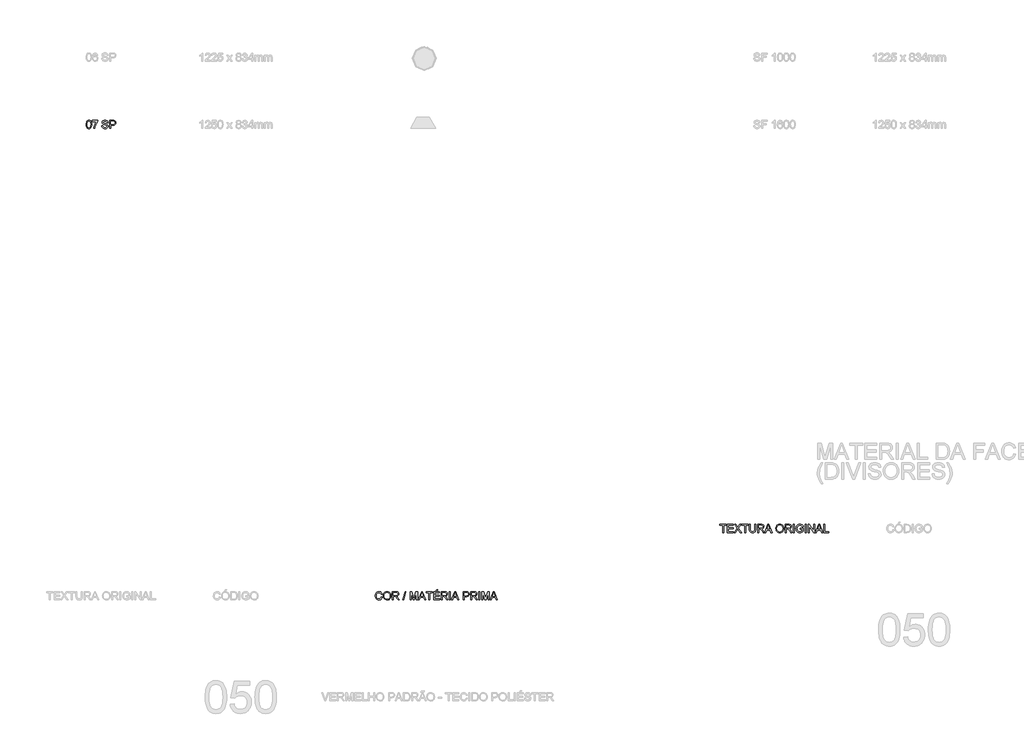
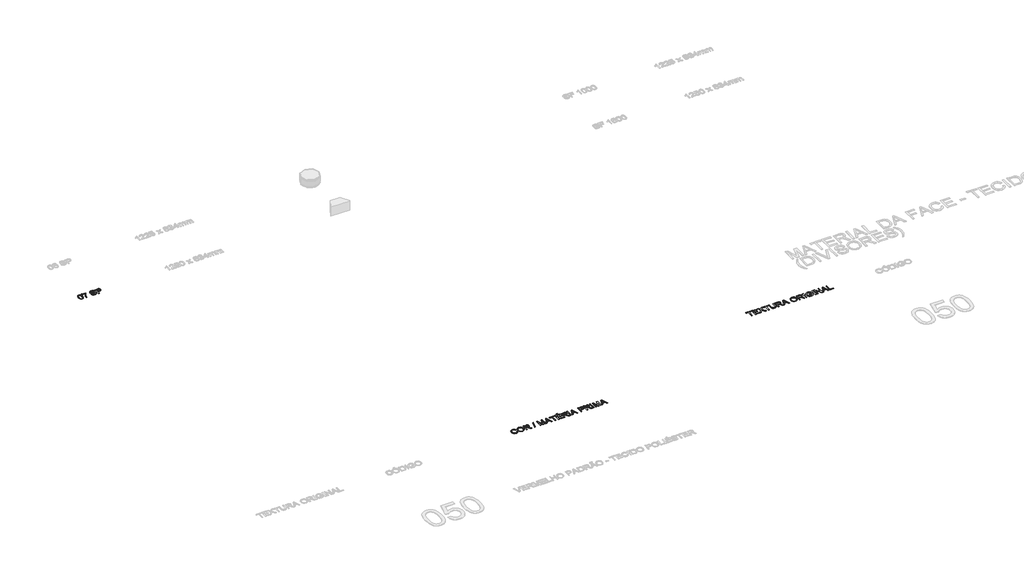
# One storey, part 21 of 67: 3 proxies.
"""IFC4 building model written with IfcOpenShell, lengths in millimetres."""

from ifc_helpers import new_model, si_unit, origin, origin_with_axes, place, context, project, spatial, polyline, outline, extrude, element, save

model = new_model("IFC4")

# Units and contexts
model_context = context("Model", 3, world=origin())
ifc_project = project(units=[si_unit("LENGTHUNIT", "METRE", prefix="MILLI")], contexts=[model_context])

# Site, building, storey
site = spatial("IfcSite", under=ifc_project)
building = spatial("IfcBuilding", under=site)
storey = spatial("IfcBuildingStorey", under=building, Name="Marelli - Linha COLAB - Planta Baixa", Elevation=0.0)

# Proxies
placement = place(None, origin())
element("IfcBuildingElementProxy", 1, Name="300mm Arial", ObjectType="300mm Arial", at=placement, inside=storey, context=model_context, shape_type="SweptSolid", body=[
    extrude(outline(polyline([(-29646.6724166, -8632.309876), (-29643.9041046, -8584.0713494), (-29635.5991686, -8545.6000897), (-29621.8403819, -8516.3074859), (-29602.7105182, -8495.6049266), (-29578.0716216, -8483.2992739), (-29547.7857363, -8479.1973896), (-29524.5723824, -8481.6254108), (-29503.7870497, -8488.9094743), (-29486.4046254, -8500.7644716), (-29473.3999969, -8516.9052941), (-29463.5775476, -8537.1939862), (-29455.7416611, -8561.4925919), (-29450.6097073, -8592.3486943), (-29448.899056, -8632.309876), (-29451.6397769, -8680.2724911), (-29459.8619395, -8718.6517803), (-29473.5379526, -8747.9719753), (-29492.6402252, -8768.757308), (-29517.3343042, -8781.1457342), (-29547.7857363, -8785.2752096), (-29568.5342808, -8783.4817849), (-29586.9283806, -8778.1015107), (-29602.9680356, -8769.1343871), (-29616.6532458, -8756.580414), (-29629.786633, -8733.8866934), (-29639.1676239, -8705.6103636), (-29644.7962184, -8671.7514244), (-29646.6724166, -8632.309876)]), holes=[polyline([(-29609.0013003, -8632.2362996), (-29604.5867164, -8691.492892), (-29599.0684864, -8711.7608907), (-29591.3429645, -8725.788691), (-29571.6244896, -8742.1502427), (-29547.7857363, -8747.6040933), (-29523.946983, -8742.1318486), (-29504.2285081, -8725.7151146), (-29496.5029862, -8711.6643216), (-29490.9847563, -8691.4009215), (-29486.5701723, -8632.2362996), (-29490.8376035, -8574.3132795), (-29496.1718924, -8554.1119594), (-29503.6398969, -8539.750766), (-29523.3215836, -8522.589071), (-29548.2271947, -8516.8685059), (-29571.8084306, -8521.9084893), (-29590.7543533, -8537.0284393), (-29598.7373926, -8552.6634241), (-29604.4395636, -8573.7430624), (-29609.0013003, -8632.2362996)])]), origin_with_axes(), (0.0, 0.0, 1.0), 10.0),
    extrude(outline(polyline([(-29415.9368292, -8521.5773955), (-29415.9368292, -8483.9062792), (-29218.1634686, -8483.9062792), (-29218.1634686, -8514.3669084), (-29246.3524265, -8550.0422648), (-29274.2654729, -8595.4113119), (-29298.8859754, -8646.3353771), (-29317.1973017, -8698.6757879), (-29326.1736224, -8737.8368263), (-29331.1768175, -8780.5663201), (-29368.8479339, -8780.5663201), (-29364.7736408, -8741.7363755), (-29353.8751366, -8695.5855792), (-29336.4467271, -8646.6664709), (-29312.7827178, -8599.5315902), (-29285.15478, -8556.9216582), (-29255.8345849, -8521.5773955), (-29415.9368292, -8521.5773955)])), origin_with_axes(), (0.0, 0.0, 1.0), 10.0),
    extrude(outline(polyline([(-29067.4790034, -8676.9707502), (-29029.8078871, -8676.9707502), (-29025.4852737, -8697.8756446), (-29017.6677813, -8714.6786547), (-29005.4724931, -8728.0143771), (-28988.0164924, -8738.517408), (-28966.6793367, -8745.332422), (-28942.8405834, -8747.6040933), (-28921.8529156, -8745.884245), (-28903.47721, -8740.7247), (-28888.5871862, -8732.5577197), (-28878.0565641, -8721.8155654), (-28871.7933731, -8709.4823215), (-28869.7056428, -8696.5420724), (-28871.2691413, -8683.932917), (-28875.9596367, -8673.0344129), (-28885.4877804, -8663.7361954), (-28901.5642236, -8655.9279001), (-28956.4154291, -8641.5437141), (-28992.4218793, -8632.0247675), (-29015.4604893, -8622.9656733), (-29034.213274, -8610.2921386), (-29047.5030111, -8594.9330653), (-29055.421671, -8577.2195472), (-29058.0612243, -8557.4826782), (-29054.7962716, -8535.4189555), (-29045.0014135, -8514.845155), (-29028.9341674, -8497.4075484), (-29006.8520506, -8484.7524077), (-28980.3461528, -8477.054477), (-28951.0075637, -8474.4885001), (-28919.2225593, -8477.1740386), (-28891.4106805, -8485.2306543), (-28868.5652086, -8498.4928003), (-28851.679425, -8516.7949295), (-28840.9924531, -8538.9966079), (-28836.743416, -8563.9574013), (-28874.4145323, -8563.9574013), (-28881.3307138, -8541.4798114), (-28895.7516881, -8525.2562154), (-28918.2844603, -8515.4337661), (-28949.5360358, -8512.1596164), (-28981.5233752, -8515.3969779), (-29003.4675362, -8525.1090626), (-29016.1594651, -8539.4012781), (-29020.390108, -8556.3790322), (-29017.3918698, -8570.8551887), (-29008.397155, -8582.4986539), (-28987.1335757, -8592.9097143), (-28946.8872854, -8603.541504), (-28905.3534081, -8613.6398648), (-28880.2270679, -8622.4506385), (-28858.7519564, -8636.1174547), (-28843.7699621, -8652.9848441), (-28834.9683854, -8672.868866), (-28832.0345265, -8695.5855792), (-28835.4098438, -8718.8081301), (-28845.5357957, -8740.6511236), (-28861.998515, -8759.4498935), (-28884.3841344, -8773.539774), (-28911.3038994, -8782.3413507), (-28941.3690555, -8785.2752096), (-28978.2768166, -8782.1114244), (-29008.6546724, -8772.620069), (-29032.8521106, -8756.764355), (-29051.2186192, -8734.5074943), (-29063.0092372, -8707.3945912), (-29067.4790034, -8676.9707502)])), origin_with_axes(), (0.0, 0.0, 1.0), 10.0),
    extrude(outline(polyline([(-28775.527852, -8780.5663201), (-28775.527852, -8479.1973896), (-28663.8388783, -8479.1973896), (-28618.8101221, -8482.0668692), (-28598.7329622, -8487.4287493), (-28582.2058636, -8496.1567496), (-28568.8977324, -8508.6463433), (-28558.4774749, -8525.2930036), (-28551.7452344, -8544.9287051), (-28549.5011542, -8566.3854225), (-28551.0163682, -8584.8852883), (-28555.5620101, -8601.9044291), (-28563.1380799, -8617.4428449), (-28573.7445777, -8631.5005356), (-28588.3058069, -8643.1531978), (-28607.7460711, -8651.476528), (-28632.0653702, -8656.470526), (-28661.2637043, -8658.1351921), (-28737.8567357, -8658.1351921), (-28737.8567357, -8780.5663201), (-28775.527852, -8780.5663201)]), holes=[polyline([(-28737.8567357, -8620.4640758), (-28659.0564124, -8620.4640758), (-28625.6527272, -8617.005985), (-28603.5798075, -8606.6317127), (-28591.2741547, -8589.9850525), (-28587.1722705, -8567.7097977), (-28589.5910946, -8550.7872259), (-28596.847567, -8536.5134045), (-28608.0403767, -8525.7712502), (-28622.2682128, -8519.4436799), (-28659.9393291, -8516.8685059), (-28737.8567357, -8516.8685059), (-28737.8567357, -8620.4640758)])]), origin_with_axes(), (0.0, 0.0, 1.0), 10.0),
])
element("IfcBuildingElementProxy", 2, Name="300mm Arial", ObjectType="300mm Arial", at=placement, inside=storey, context=model_context, shape_type="SweptSolid", body=[
    extrude(outline(polyline([(-18695.8970747, -26173.4390831), (-18658.2259584, -26183.1511677), (-18665.6801673, -26206.5783531), (-18675.6083827, -26227.0486868), (-18688.0106044, -26244.5621691), (-18702.8868326, -26259.1187997), (-18719.9013749, -26270.5622291), (-18738.7185389, -26278.7361071), (-18759.3383248, -26283.640434), (-18781.7607324, -26285.2752096), (-18825.4559164, -26280.3271968), (-18860.1563855, -26265.4831583), (-18886.7542538, -26241.2581289), (-18906.1416349, -26208.1671434), (-18917.9782381, -26169.2636224), (-18921.9237725, -26127.6009865), (-18917.4632033, -26083.6574821), (-18904.0814958, -26045.7104543), (-18882.4776256, -26014.9647166), (-18853.3505686, -25992.6250824), (-18818.8064493, -25979.0226457), (-18780.951392, -25974.4885001), (-18739.647441, -25980.3562179), (-18721.6787048, -25987.6908652), (-18705.4987948, -25997.9593714), (-18691.3744254, -26010.8904235), (-18679.5723112, -26026.2127086), (-18662.9348479, -26064.0309777), (-18700.6059642, -26073.0072984), (-18713.6657751, -26045.5357104), (-18731.5080518, -26026.6909552), (-18754.3535237, -26015.7924511), (-18782.42292, -26012.1596164), (-18814.7781414, -26016.1879242), (-18841.3576156, -26028.2728478), (-18861.526746, -26047.1451941), (-18874.6509362, -26071.5357704), (-18881.8522262, -26099.1085259), (-18884.2526562, -26127.5274101), (-18881.4107678, -26162.3290468), (-18872.8851026, -26192.421794), (-18858.3537638, -26216.6560205), (-18837.4948546, -26233.8820949), (-18812.488076, -26244.1735937), (-18785.5131287, -26247.6040933), (-18754.0684152, -26242.931992), (-18727.8660201, -26228.9156879), (-18708.0831658, -26205.702334), (-18695.8970747, -26173.4390831)])), origin_with_axes(), (0.0, 0.0, 1.0), 10.0),
    extrude(outline(polyline([(-18620.5548421, -26133.8549804), (-18618.0440475, -26098.5061192), (-18610.5116636, -26067.213157), (-18597.9576905, -26039.9760937), (-18580.3821282, -26016.7949295), (-18558.8380389, -25998.2858666), (-18534.3784847, -25985.0651074), (-18507.0034658, -25977.1326519), (-18476.712982, -25974.4885001), (-18437.1840616, -25979.454907), (-18401.7386314, -25994.3541278), (-18372.3080717, -26018.1376988), (-18350.8237632, -26049.7571563), (-18337.690376, -26087.68579), (-18333.3125803, -26130.3968896), (-18337.9203022, -26173.6782064), (-18351.7434682, -26212.140269), (-18374.018723, -26243.8149087), (-18403.9827115, -26266.733957), (-18439.1246391, -26280.6398965), (-18476.9337112, -26285.2752096), (-18517.0696368, -26280.1524528), (-18552.7174022, -26264.7841825), (-18582.0743854, -26240.5591531), (-18603.3379647, -26208.8661192), (-18616.2506227, -26172.3998164), (-18620.5548421, -26133.8549804)]), holes=[polyline([(-18582.8837258, -26134.2228624), (-18581.0006298, -26159.1974513), (-18575.3513419, -26181.3669401), (-18565.9358621, -26200.7313286), (-18552.7541904, -26217.2906169), (-18536.7306302, -26230.5527628), (-18518.7894852, -26240.0257242), (-18498.9307552, -26245.709501), (-18477.1544404, -26247.6040933), (-18455.005645, -26245.6911069), (-18434.9123903, -26239.9521478), (-18416.8746762, -26230.3872159), (-18400.8925028, -26216.9963113), (-18387.8074001, -26200.0875351), (-18378.4608981, -26179.9689885), (-18372.8529969, -26156.6406715), (-18370.9836966, -26130.102584), (-18374.1842699, -26096.7540812), (-18383.78599, -26067.9305269), (-18399.5405364, -26044.358488), (-18421.1995889, -26026.7645316), (-18447.3284076, -26015.8108452), (-18476.4922528, -26012.1596164), (-18497.5121103, -26013.9185522), (-18517.0144545, -26019.1953595), (-18534.9992856, -26027.9900385), (-18551.4666034, -26040.302589), (-18565.2115944, -26056.7262208), (-18575.0294452, -26077.8541437), (-18580.9201556, -26103.6863575), (-18582.8837258, -26134.2228624)])]), origin_with_axes(), (0.0, 0.0, 1.0), 10.0),
    extrude(outline(polyline([(-18281.5147953, -26280.5663201), (-18281.5147953, -25979.1973896), (-18151.652451, -25979.1973896), (-18116.7496467, -25981.2299376), (-18091.356592, -25987.3275817), (-18072.7969454, -25998.5847708), (-18058.3943653, -26016.0959537), (-18049.1513301, -26037.8101885), (-18046.0703184, -26061.6765329), (-18051.1746811, -26091.3646099), (-18066.4877692, -26115.9759154), (-18078.0875483, -26126.0052983), (-18092.4694351, -26134.0205273), (-18129.5795313, -26144.0085235), (-18108.1687992, -26160.1217548), (-18077.6345936, -26198.8965171), (-18027.3819131, -26280.5663201), (-18071.1598705, -26280.5663201), (-18110.3760912, -26218.0999573), (-18138.7030048, -26176.750021), (-18158.6054207, -26157.2154871), (-18176.5212739, -26150.0417882), (-18198.3734644, -26148.717413), (-18243.843679, -26148.717413), (-18243.843679, -26280.5663201), (-18281.5147953, -26280.5663201)]), holes=[polyline([(-18243.843679, -26111.0462967), (-18159.5251257, -26111.0462967), (-18135.3092934, -26109.7127245), (-18116.5197205, -26105.7120078), (-18102.3746578, -26098.7774322), (-18092.092356, -26088.6422832), (-18085.829165, -26076.3826157), (-18083.7414347, -26063.0744845), (-18087.7237573, -26044.6987789), (-18099.6707251, -26029.8915286), (-18120.2261316, -26020.1242616), (-18150.0337703, -26016.8685059), (-18243.843679, -26016.8685059), (-18243.843679, -26111.0462967)])]), origin_with_axes(), (0.0, 0.0, 1.0), 10.0),
    extrude(outline(polyline([(-17895.3858532, -26280.5663201), (-17810.6258415, -25979.1973896), (-17776.6335452, -25979.1973896), (-17861.3935568, -26280.5663201), (-17895.3858532, -26280.5663201)])), origin_with_axes(), (0.0, 0.0, 1.0), 10.0),
    extrude(outline(polyline([(-17626.9791495, -26280.5663201), (-17626.9791495, -25979.1973896), (-17562.158342, -25979.1973896), (-17500.5013196, -26191.6124536), (-17488.0669081, -26235.9790223), (-17474.6024271, -26187.9336337), (-17413.9754743, -25979.1973896), (-17349.1546668, -25979.1973896), (-17349.1546668, -26280.5663201), (-17386.8257831, -26280.5663201), (-17386.8257831, -26016.8685059), (-17462.5358977, -26280.5663201), (-17513.5979186, -26280.5663201), (-17589.3080332, -26016.8685059), (-17589.3080332, -26280.5663201), (-17626.9791495, -26280.5663201)])), origin_with_axes(), (0.0, 0.0, 1.0), 10.0),
    extrude(outline(polyline([(-17318.3261556, -26280.5663201), (-17198.0287431, -25979.1973896), (-17165.9494332, -25979.1973896), (-17045.6520207, -26280.5663201), (-17085.4568526, -26280.5663201), (-17119.9641838, -26186.3885293), (-17244.0875689, -26186.3885293), (-17278.5213237, -26280.5663201), (-17318.3261556, -26280.5663201)]), holes=[polyline([(-17230.2552059, -26148.717413), (-17133.7229704, -26148.717413), (-17160.8726616, -26074.6259792), (-17181.9890881, -26016.8685059), (-17200.7510699, -26068.1512561), (-17230.2552059, -26148.717413)])]), origin_with_axes(), (0.0, 0.0, 1.0), 10.0),
    extrude(outline(polyline([(-16930.0634979, -26280.5663201), (-16930.0634979, -26016.8685059), (-17028.9501782, -26016.8685059), (-17028.9501782, -25979.1973896), (-16793.5057012, -25979.1973896), (-16793.5057012, -26016.8685059), (-16892.3923815, -26016.8685059), (-16892.3923815, -26280.5663201), (-16930.0634979, -26280.5663201)])), origin_with_axes(), (0.0, 0.0, 1.0), 10.0),
    extrude(outline(polyline([(-16751.1256954, -26280.5663201), (-16751.1256954, -25979.1973896), (-16534.5167766, -25979.1973896), (-16534.5167766, -26016.8685059), (-16713.4545791, -26016.8685059), (-16713.4545791, -26106.3374072), (-16543.9345557, -26106.3374072), (-16543.9345557, -26144.0085235), (-16713.4545791, -26144.0085235), (-16713.4545791, -26242.8952038), (-16529.8078871, -26242.8952038), (-16529.8078871, -26280.5663201), (-16751.1256954, -26280.5663201)])), origin_with_axes(), (0.0, 0.0, 1.0), 10.0),
    extrude(outline(polyline([(-16666.3656837, -25960.3618315), (-16638.1123465, -25903.855157), (-16591.0234511, -25903.855157), (-16638.1123465, -25960.3618315), (-16666.3656837, -25960.3618315)])), origin_with_axes(), (0.0, 0.0, 1.0), 10.0),
    extrude(outline(polyline([(-16473.3012126, -26280.5663201), (-16473.3012126, -25979.1973896), (-16343.4388683, -25979.1973896), (-16308.536064, -25981.2299376), (-16283.1430093, -25987.3275817), (-16264.5833627, -25998.5847708), (-16250.1807826, -26016.0959537), (-16240.9377474, -26037.8101885), (-16237.8567357, -26061.6765329), (-16242.9610984, -26091.3646099), (-16258.2741865, -26115.9759154), (-16269.8739656, -26126.0052983), (-16284.2558524, -26134.0205273), (-16321.3659486, -26144.0085235), (-16299.9552165, -26160.1217548), (-16269.4210109, -26198.8965171), (-16219.1683304, -26280.5663201), (-16262.9462878, -26280.5663201), (-16302.1625085, -26218.0999573), (-16330.4894221, -26176.750021), (-16350.3918381, -26157.2154871), (-16368.3076912, -26150.0417882), (-16390.1598817, -26148.717413), (-16435.6300963, -26148.717413), (-16435.6300963, -26280.5663201), (-16473.3012126, -26280.5663201)]), holes=[polyline([(-16435.6300963, -26111.0462967), (-16351.311543, -26111.0462967), (-16327.0957107, -26109.7127245), (-16308.3061378, -26105.7120078), (-16294.1610751, -26098.7774322), (-16283.8787733, -26088.6422832), (-16277.6155824, -26076.3826157), (-16275.527852, -26063.0744845), (-16279.5101746, -26044.6987789), (-16291.4571424, -26029.8915286), (-16312.0125489, -26020.1242616), (-16341.8201876, -26016.8685059), (-16435.6300963, -26016.8685059), (-16435.6300963, -26111.0462967)])]), origin_with_axes(), (0.0, 0.0, 1.0), 10.0),
    extrude(outline(polyline([(-16167.2233927, -26280.5663201), (-16167.2233927, -25979.1973896), (-16129.5522763, -25979.1973896), (-16129.5522763, -26280.5663201), (-16167.2233927, -26280.5663201)])), origin_with_axes(), (0.0, 0.0, 1.0), 10.0),
    extrude(outline(polyline([(-16089.3059861, -26280.5663201), (-15969.0085737, -25979.1973896), (-15936.9292637, -25979.1973896), (-15816.6318512, -26280.5663201), (-15856.4366831, -26280.5663201), (-15890.9440143, -26186.3885293), (-16015.0673994, -26186.3885293), (-16049.5011542, -26280.5663201), (-16089.3059861, -26280.5663201)]), holes=[polyline([(-16001.2350364, -26148.717413), (-15904.7028009, -26148.717413), (-15931.8524921, -26074.6259792), (-15952.9689187, -26016.8685059), (-15971.7309004, -26068.1512561), (-16001.2350364, -26148.717413)])]), origin_with_axes(), (0.0, 0.0, 1.0), 10.0),
    extrude(outline(polyline([(-15658.6633225, -26280.5663201), (-15658.6633225, -25979.1973896), (-15546.9743488, -25979.1973896), (-15501.9455926, -25982.0668692), (-15481.8684327, -25987.4287493), (-15465.3413341, -25996.1567496), (-15452.0332029, -26008.6463433), (-15441.6129454, -26025.2930036), (-15434.8807049, -26044.9287051), (-15432.6366247, -26066.3854225), (-15434.1518387, -26084.8852883), (-15438.6974806, -26101.9044291), (-15446.2735504, -26117.4428449), (-15456.8800482, -26131.5005356), (-15471.4412774, -26143.1531978), (-15490.8815416, -26151.476528), (-15515.2008407, -26156.470526), (-15544.3991748, -26158.1351921), (-15620.9922062, -26158.1351921), (-15620.9922062, -26280.5663201), (-15658.6633225, -26280.5663201)]), holes=[polyline([(-15620.9922062, -26120.4640758), (-15542.1918828, -26120.4640758), (-15508.7881977, -26117.005985), (-15486.715278, -26106.6317127), (-15474.4096252, -26089.9850525), (-15470.307741, -26067.7097977), (-15472.7265651, -26050.7872259), (-15479.9830375, -26036.5134045), (-15491.1758472, -26025.7712502), (-15505.4036833, -26019.4436799), (-15543.0747996, -26016.8685059), (-15620.9922062, -26016.8685059), (-15620.9922062, -26120.4640758)])]), origin_with_axes(), (0.0, 0.0, 1.0), 10.0),
    extrude(outline(polyline([(-15380.8388398, -26280.5663201), (-15380.8388398, -25979.1973896), (-15250.9764955, -25979.1973896), (-15216.0736912, -25981.2299376), (-15190.6806365, -25987.3275817), (-15172.1209898, -25998.5847708), (-15157.7184097, -26016.0959537), (-15148.4753746, -26037.8101885), (-15145.3943628, -26061.6765329), (-15150.4987255, -26091.3646099), (-15165.8118136, -26115.9759154), (-15177.4115927, -26126.0052983), (-15191.7934795, -26134.0205273), (-15228.9035758, -26144.0085235), (-15207.4928436, -26160.1217548), (-15176.958638, -26198.8965171), (-15126.7059575, -26280.5663201), (-15170.4839149, -26280.5663201), (-15209.7001356, -26218.0999573), (-15238.0270492, -26176.750021), (-15257.9294652, -26157.2154871), (-15275.8453183, -26150.0417882), (-15297.6975089, -26148.717413), (-15343.1677235, -26148.717413), (-15343.1677235, -26280.5663201), (-15380.8388398, -26280.5663201)]), holes=[polyline([(-15343.1677235, -26111.0462967), (-15258.8491702, -26111.0462967), (-15234.6333378, -26109.7127245), (-15215.8437649, -26105.7120078), (-15201.6987022, -26098.7774322), (-15191.4164004, -26088.6422832), (-15185.1532095, -26076.3826157), (-15183.0654792, -26063.0744845), (-15187.0478018, -26044.6987789), (-15198.9947695, -26029.8915286), (-15219.550176, -26020.1242616), (-15249.3578147, -26016.8685059), (-15343.1677235, -26016.8685059), (-15343.1677235, -26111.0462967)])]), origin_with_axes(), (0.0, 0.0, 1.0), 10.0),
    extrude(outline(polyline([(-15074.7610198, -26280.5663201), (-15074.7610198, -25979.1973896), (-15037.0899035, -25979.1973896), (-15037.0899035, -26280.5663201), (-15074.7610198, -26280.5663201)])), origin_with_axes(), (0.0, 0.0, 1.0), 10.0),
    extrude(outline(polyline([(-14961.7476709, -26280.5663201), (-14961.7476709, -25979.1973896), (-14896.9268633, -25979.1973896), (-14835.2698409, -26191.6124536), (-14822.8354295, -26235.9790223), (-14809.3709485, -26187.9336337), (-14748.7439956, -25979.1973896), (-14683.9231881, -25979.1973896), (-14683.9231881, -26280.5663201), (-14721.5943044, -26280.5663201), (-14721.5943044, -26016.8685059), (-14797.304419, -26280.5663201), (-14848.3664399, -26280.5663201), (-14924.0765546, -26016.8685059), (-14924.0765546, -26280.5663201), (-14961.7476709, -26280.5663201)])), origin_with_axes(), (0.0, 0.0, 1.0), 10.0),
    extrude(outline(polyline([(-14653.0946769, -26280.5663201), (-14532.7972645, -25979.1973896), (-14500.7179545, -25979.1973896), (-14380.4205421, -26280.5663201), (-14420.225374, -26280.5663201), (-14454.7327051, -26186.3885293), (-14578.8560903, -26186.3885293), (-14613.289845, -26280.5663201), (-14653.0946769, -26280.5663201)]), holes=[polyline([(-14565.0237273, -26148.717413), (-14468.4914917, -26148.717413), (-14495.641183, -26074.6259792), (-14516.7576095, -26016.8685059), (-14535.5195912, -26068.1512561), (-14565.0237273, -26148.717413)])]), origin_with_axes(), (0.0, 0.0, 1.0), 10.0),
])
element("IfcBuildingElementProxy", 3, Name="300mm Arial", ObjectType="300mm Arial", at=placement, inside=storey, context=model_context, shape_type="SweptSolid", body=[
    extrude(outline(polyline([(-6021.6681618, -23780.5663201), (-6021.6681618, -23516.8685059), (-6120.5548421, -23516.8685059), (-6120.5548421, -23479.1973896), (-5885.1103652, -23479.1973896), (-5885.1103652, -23516.8685059), (-5983.9970455, -23516.8685059), (-5983.9970455, -23780.5663201), (-6021.6681618, -23780.5663201)])), origin_with_axes(), (0.0, 0.0, 1.0), 10.0),
    extrude(outline(polyline([(-5842.7303593, -23780.5663201), (-5842.7303593, -23479.1973896), (-5626.1214406, -23479.1973896), (-5626.1214406, -23516.8685059), (-5805.059243, -23516.8685059), (-5805.059243, -23606.3374072), (-5635.5392196, -23606.3374072), (-5635.5392196, -23644.0085235), (-5805.059243, -23644.0085235), (-5805.059243, -23742.8952038), (-5621.412551, -23742.8952038), (-5621.412551, -23780.5663201), (-5842.7303593, -23780.5663201)])), origin_with_axes(), (0.0, 0.0, 1.0), 10.0),
    extrude(outline(polyline([(-5597.8681033, -23780.5663201), (-5481.6909693, -23616.3437974), (-5579.0325452, -23479.1973896), (-5533.8566362, -23479.1973896), (-5479.0422189, -23556.3790322), (-5460.5745427, -23586.4717794), (-5438.9430814, -23555.8639974), (-5384.7172753, -23479.1973896), (-5338.8791787, -23479.1973896), (-5436.2207547, -23616.7852558), (-5320.0436206, -23780.5663201), (-5365.2195296, -23780.5663201), (-5442.6219014, -23671.3789439), (-5458.7351328, -23648.717413), (-5476.4670449, -23673.5862359), (-5552.0300067, -23780.5663201), (-5597.8681033, -23780.5663201)])), origin_with_axes(), (0.0, 0.0, 1.0), 10.0),
    extrude(outline(polyline([(-5207.0302717, -23780.5663201), (-5207.0302717, -23516.8685059), (-5305.916952, -23516.8685059), (-5305.916952, -23479.1973896), (-5070.4724751, -23479.1973896), (-5070.4724751, -23516.8685059), (-5169.3591554, -23516.8685059), (-5169.3591554, -23780.5663201), (-5207.0302717, -23780.5663201)])), origin_with_axes(), (0.0, 0.0, 1.0), 10.0),
    extrude(outline(polyline([(-4830.3191086, -23479.1973896), (-4792.6479923, -23479.1973896), (-4792.6479923, -23653.0584205), (-4795.2047722, -23693.7737604), (-4802.8751118, -23725.1265034), (-4817.2041155, -23749.3147446), (-4839.7368877, -23768.5365788), (-4870.5286107, -23781.0905519), (-4909.6344668, -23785.2752096), (-4947.8849972, -23781.6331779), (-4978.4651881, -23770.7070826), (-5001.3842364, -23752.8740029), (-5016.6513392, -23728.5110178), (-5025.2321867, -23695.8338995), (-5028.0924692, -23653.0584205), (-5028.0924692, -23479.1973896), (-4990.4213529, -23479.1973896), (-4990.4213529, -23651.7340454), (-4988.5635488, -23685.588386), (-4982.9901366, -23709.1604248), (-4972.8917758, -23725.4851883), (-4957.4591261, -23737.597703), (-4937.335981, -23745.1024957), (-4913.1661339, -23747.6040933), (-4874.8512241, -23742.6560805), (-4860.5084248, -23736.4710644), (-4849.375396, -23727.812042), (-4841.0382702, -23715.6351479), (-4835.0831804, -23698.8965171), (-4830.3191086, -23651.7340454), (-4830.3191086, -23479.1973896)])), origin_with_axes(), (0.0, 0.0, 1.0), 10.0),
    extrude(outline(polyline([(-4726.7235388, -23780.5663201), (-4726.7235388, -23479.1973896), (-4596.8611945, -23479.1973896), (-4561.9583902, -23481.2299376), (-4536.5653355, -23487.3275817), (-4518.0056888, -23498.5847708), (-4503.6031087, -23516.0959537), (-4494.3600736, -23537.8101885), (-4491.2790618, -23561.6765329), (-4496.3834245, -23591.3646099), (-4511.6965126, -23615.9759154), (-4523.2962917, -23626.0052983), (-4537.6781785, -23634.0205273), (-4574.7882748, -23644.0085235), (-4553.3775426, -23660.1217548), (-4522.843337, -23698.8965171), (-4472.5906565, -23780.5663201), (-4516.3686139, -23780.5663201), (-4555.5848346, -23718.0999573), (-4583.9117482, -23676.750021), (-4603.8141642, -23657.2154871), (-4621.7300173, -23650.0417882), (-4643.5822079, -23648.717413), (-4689.0524225, -23648.717413), (-4689.0524225, -23780.5663201), (-4726.7235388, -23780.5663201)]), holes=[polyline([(-4689.0524225, -23611.0462967), (-4604.7338692, -23611.0462967), (-4580.5180368, -23609.7127245), (-4561.7284639, -23605.7120078), (-4547.5834012, -23598.7774322), (-4537.3010994, -23588.6422832), (-4531.0379085, -23576.3826157), (-4528.9501782, -23563.0744845), (-4532.9325008, -23544.6987789), (-4544.8794685, -23529.8915286), (-4565.434875, -23520.1242616), (-4595.2425137, -23516.8685059), (-4689.0524225, -23516.8685059), (-4689.0524225, -23611.0462967)])]), origin_with_axes(), (0.0, 0.0, 1.0), 10.0),
    extrude(outline(polyline([(-4460.4505507, -23780.5663201), (-4340.1531382, -23479.1973896), (-4308.0738283, -23479.1973896), (-4187.7764158, -23780.5663201), (-4227.5812477, -23780.5663201), (-4262.0885789, -23686.3885293), (-4386.211964, -23686.3885293), (-4420.6457188, -23780.5663201), (-4460.4505507, -23780.5663201)]), holes=[polyline([(-4372.379601, -23648.717413), (-4275.8473655, -23648.717413), (-4302.9970567, -23574.6259792), (-4324.1134832, -23516.8685059), (-4342.875465, -23568.1512561), (-4372.379601, -23648.717413)])]), origin_with_axes(), (0.0, 0.0, 1.0), 10.0),
    extrude(outline(polyline([(-4043.9345557, -23633.8549804), (-4041.4237611, -23598.5061192), (-4033.8913772, -23567.213157), (-4021.3374042, -23539.9760937), (-4003.7618418, -23516.7949295), (-3982.2177525, -23498.2858666), (-3957.7581983, -23485.0651074), (-3930.3831794, -23477.1326519), (-3900.0926956, -23474.4885001), (-3860.5637752, -23479.454907), (-3825.118345, -23494.3541278), (-3795.6877854, -23518.1376988), (-3774.2034768, -23549.7571563), (-3761.0700896, -23587.68579), (-3756.6922939, -23630.3968896), (-3761.3000159, -23673.6782064), (-3775.1231818, -23712.140269), (-3797.3984366, -23743.8149087), (-3827.3624252, -23766.733957), (-3862.5043527, -23780.6398965), (-3900.3134248, -23785.2752096), (-3940.4493505, -23780.1524528), (-3976.0971158, -23764.7841825), (-4005.454099, -23740.5591531), (-4026.7176783, -23708.8661192), (-4039.6303364, -23672.3998164), (-4043.9345557, -23633.8549804)]), holes=[polyline([(-4006.2634394, -23634.2228624), (-4004.3803434, -23659.1974513), (-3998.7310556, -23681.3669401), (-3989.3155757, -23700.7313286), (-3976.133904, -23717.2906169), (-3960.1103438, -23730.5527628), (-3942.1691988, -23740.0257242), (-3922.3104688, -23745.709501), (-3900.534154, -23747.6040933), (-3878.3853586, -23745.6911069), (-3858.2921039, -23739.9521478), (-3840.2543898, -23730.3872159), (-3824.2722164, -23716.9963113), (-3811.1871137, -23700.0875351), (-3801.8406117, -23679.9689885), (-3796.2327106, -23656.6406715), (-3794.3634102, -23630.102584), (-3797.5639835, -23596.7540812), (-3807.1657036, -23567.9305269), (-3822.9202501, -23544.358488), (-3844.5793025, -23526.7645316), (-3870.7081212, -23515.8108452), (-3899.8719664, -23512.1596164), (-3920.8918239, -23513.9185522), (-3940.3941682, -23519.1953595), (-3958.3789992, -23527.9900385), (-3974.846317, -23540.302589), (-3988.5913081, -23556.7262208), (-3998.4091588, -23577.8541437), (-4004.2998693, -23603.6863575), (-4006.2634394, -23634.2228624)])]), origin_with_axes(), (0.0, 0.0, 1.0), 10.0),
    extrude(outline(polyline([(-3704.894509, -23780.5663201), (-3704.894509, -23479.1973896), (-3575.0321647, -23479.1973896), (-3540.1293604, -23481.2299376), (-3514.7363057, -23487.3275817), (-3496.176659, -23498.5847708), (-3481.7740789, -23516.0959537), (-3472.5310438, -23537.8101885), (-3469.450032, -23561.6765329), (-3474.5543947, -23591.3646099), (-3489.8674828, -23615.9759154), (-3501.4672619, -23626.0052983), (-3515.8491487, -23634.0205273), (-3552.959245, -23644.0085235), (-3531.5485128, -23660.1217548), (-3501.0143072, -23698.8965171), (-3450.7616267, -23780.5663201), (-3494.5395841, -23780.5663201), (-3533.7558048, -23718.0999573), (-3562.0827184, -23676.750021), (-3581.9851344, -23657.2154871), (-3599.9009875, -23650.0417882), (-3621.753178, -23648.717413), (-3667.2233927, -23648.717413), (-3667.2233927, -23780.5663201), (-3704.894509, -23780.5663201)]), holes=[polyline([(-3667.2233927, -23611.0462967), (-3582.9048394, -23611.0462967), (-3558.689007, -23609.7127245), (-3539.8994341, -23605.7120078), (-3525.7543714, -23598.7774322), (-3515.4720696, -23588.6422832), (-3509.2088787, -23576.3826157), (-3507.1211484, -23563.0744845), (-3511.1034709, -23544.6987789), (-3523.0504387, -23529.8915286), (-3543.6058452, -23520.1242616), (-3573.4134839, -23516.8685059), (-3667.2233927, -23516.8685059), (-3667.2233927, -23611.0462967)])]), origin_with_axes(), (0.0, 0.0, 1.0), 10.0),
    extrude(outline(polyline([(-3398.816689, -23780.5663201), (-3398.816689, -23479.1973896), (-3361.1455727, -23479.1973896), (-3361.1455727, -23780.5663201), (-3398.816689, -23780.5663201)])), origin_with_axes(), (0.0, 0.0, 1.0), 10.0),
    extrude(outline(polyline([(-3144.5366539, -23662.8440816), (-3144.5366539, -23625.1729653), (-3022.1055259, -23625.1729653), (-3022.1055259, -23737.8184322), (-3051.8579823, -23758.5117945), (-3082.5485377, -23773.355833), (-3114.1036159, -23782.2953654), (-3146.4496403, -23785.2752096), (-3188.7100845, -23780.5387289), (-3226.9054326, -23766.3292869), (-3258.6352547, -23743.1435241), (-3281.4991207, -23711.4780814), (-3295.3222867, -23673.4942654), (-3299.9300087, -23631.3533828), (-3295.3406808, -23588.9089976), (-3281.5726971, -23549.4260625), (-3259.1962748, -23516.3074859), (-3228.7816308, -23492.9561762), (-3191.7359139, -23479.1054191), (-3149.4662726, -23474.4885001), (-3118.4354263, -23477.1648416), (-3090.531577, -23485.1938661), (-3067.0331146, -23497.9961596), (-3049.218429, -23514.9923078), (-3036.0390565, -23537.0008481), (-3026.4465335, -23564.8403181), (-3061.1745938, -23574.6259792), (-3068.9277068, -23554.7695485), (-3078.354683, -23539.7875542), (-3090.8258826, -23528.493577), (-3107.7116662, -23519.7011973), (-3127.8440084, -23514.0450116), (-3150.0548838, -23512.1596164), (-3176.0549438, -23514.1921644), (-3198.2842134, -23520.2898085), (-3216.6599191, -23529.6891935), (-3231.0992874, -23541.6269642), (-3250.4866685, -23570.6528536), (-3259.3158364, -23599.0901318), (-3262.2588924, -23629.8082784), (-3258.7180282, -23665.8331228), (-3248.0954355, -23695.4752146), (-3230.7130113, -23718.5230216), (-3206.8926521, -23734.7650117), (-3179.0163939, -23744.3943229), (-3149.4662726, -23747.6040933), (-3123.3742421, -23745.1852692), (-3097.9260051, -23737.9287968), (-3075.8254943, -23727.9316036), (-3059.7766422, -23717.2906169), (-3059.7766422, -23662.8440816), (-3144.5366539, -23662.8440816)])), origin_with_axes(), (0.0, 0.0, 1.0), 10.0),
    extrude(outline(polyline([(-2956.1810724, -23780.5663201), (-2956.1810724, -23479.1973896), (-2918.5099561, -23479.1973896), (-2918.5099561, -23780.5663201), (-2956.1810724, -23780.5663201)])), origin_with_axes(), (0.0, 0.0, 1.0), 10.0),
    extrude(outline(polyline([(-2843.1677235, -23780.5663201), (-2843.1677235, -23479.1973896), (-2802.8478568, -23479.1973896), (-2645.3943628, -23717.9528045), (-2645.3943628, -23479.1973896), (-2607.7232465, -23479.1973896), (-2607.7232465, -23780.5663201), (-2648.0431132, -23780.5663201), (-2805.4966071, -23541.7373288), (-2805.4966071, -23780.5663201), (-2843.1677235, -23780.5663201)])), origin_with_axes(), (0.0, 0.0, 1.0), 10.0),
    extrude(outline(polyline([(-2576.8947353, -23780.5663201), (-2456.5973229, -23479.1973896), (-2424.5180129, -23479.1973896), (-2304.2206005, -23780.5663201), (-2344.0254324, -23780.5663201), (-2378.5327635, -23686.3885293), (-2502.6561487, -23686.3885293), (-2537.0899035, -23780.5663201), (-2576.8947353, -23780.5663201)]), holes=[polyline([(-2488.8237857, -23648.717413), (-2392.2915502, -23648.717413), (-2419.4412414, -23574.6259792), (-2440.5576679, -23516.8685059), (-2459.3196497, -23568.1512561), (-2488.8237857, -23648.717413)])]), origin_with_axes(), (0.0, 0.0, 1.0), 10.0),
    extrude(outline(polyline([(-2263.9743102, -23780.5663201), (-2263.9743102, -23479.1973896), (-2226.3031939, -23479.1973896), (-2226.3031939, -23742.8952038), (-2075.6187287, -23742.8952038), (-2075.6187287, -23780.5663201), (-2263.9743102, -23780.5663201)])), origin_with_axes(), (0.0, 0.0, 1.0), 10.0),
])

save(model, "model.ifc")
